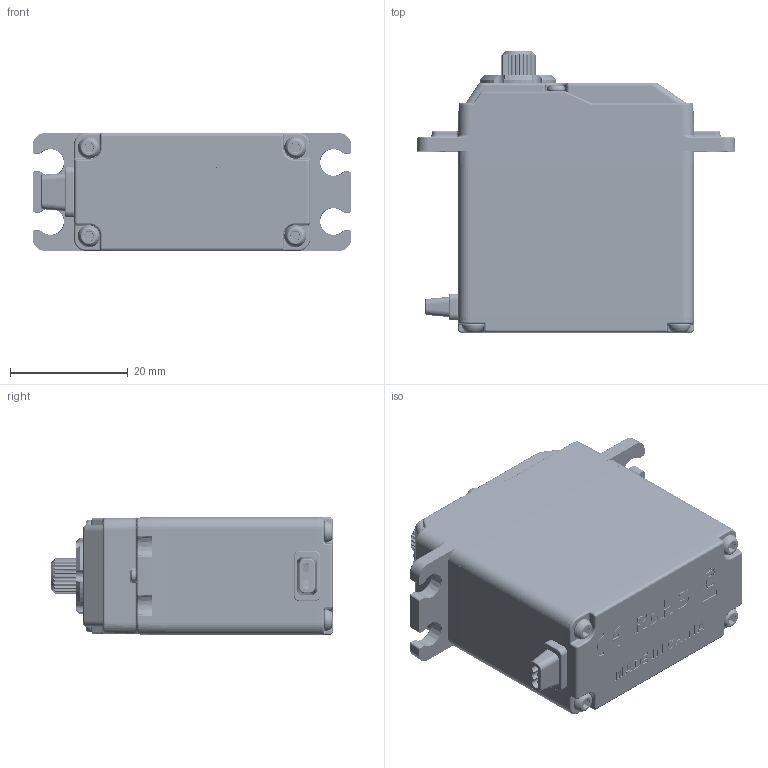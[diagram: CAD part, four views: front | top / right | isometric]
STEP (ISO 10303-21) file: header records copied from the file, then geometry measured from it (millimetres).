
FILE_DESCRIPTION((''),'2;1');
FILE_NAME('DDJ-STDCAR7-LV-DCMOTOR-MODLE_ASM','2023-06-25T',('Administrator'),(''),'PRO/ENGINEER BY PARAMETRIC TECHNOLOGY CORPORATION, 2010280','PRO/ENGINEER BY PARAMETRIC TECHNOLOGY CORPORATION, 2010280','');
FILE_SCHEMA(('CONFIG_CONTROL_DESIGN','SHAPE_APPEARANCE_LAYERS_GROUPS'));
Products named in the file (11): DDJ-STDCAR7-LM-DCMOTOR; DDJ-STDCAR7-HM; DDJ-STDLOW-ZHOUCHENG; DDJ-STDCAR-GEAR5; DDJ-XT-22-3P; DDJ-STDCAR7-T; DDJ-STDCAR7-B; DDJ-STDCAR2-LUOSI; DDJ-STDCAR2-LUOSI2; DDJ-STDCAR7-MB; DDJ-STDCAR7-LV-DCMOTOR-MODLE_ASM
Assembly tree (14 placements, depth 2):
  DDJ-STDCAR7-LV-DCMOTOR-MODLE_ASM
    DDJ-STDCAR7-LM-DCMOTOR
    DDJ-STDCAR7-HM
    DDJ-STDLOW-ZHOUCHENG
    DDJ-STDCAR-GEAR5
    DDJ-XT-22-3P
    DDJ-STDCAR7-T
    DDJ-STDCAR7-B
    DDJ-STDCAR2-LUOSI  x2
    DDJ-STDCAR2-LUOSI2  x4
    DDJ-STDCAR7-MB
Bounding box: 54 x 47.7 x 20 mm (x, y, z)
Volume: 13647.4 mm3; surface area: 20442.2 mm2
Topology: 14 solids, 14 shells, 3648 faces, 9490 edges, 5965 vertices
Faces by surface type: cylinder 1397, plane 966, bspline 479, extrusion 332, torus 288, cone 118, sphere 68
Entity records: 158471 total; most frequent: CARTESIAN_POINT 57386, ORIENTED_EDGE 16792, DIRECTION 14161, EDGE_CURVE 8396, PRESENTATION_STYLE_ASSIGNMENT 8382, STYLED_ITEM 8353, CURVE_STYLE 8344, VERTEX_POINT 5281
